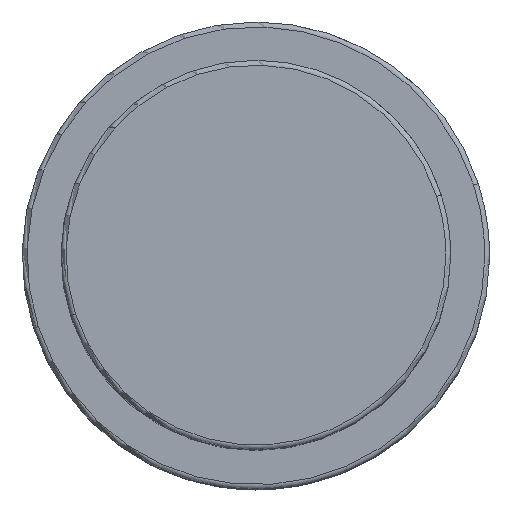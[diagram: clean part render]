
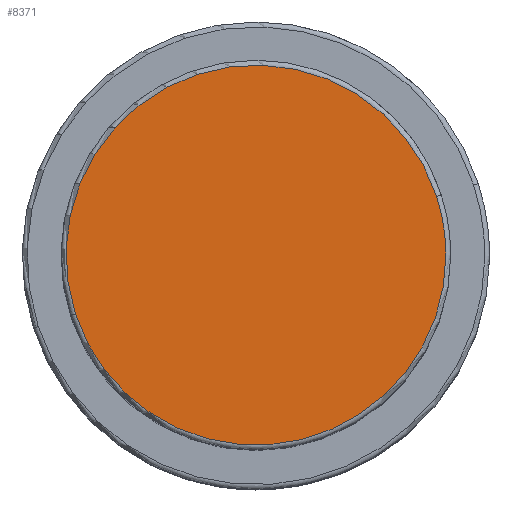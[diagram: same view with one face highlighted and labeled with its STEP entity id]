
A CAD part, top view. The second image highlights one B-rep face of the part: STEP entity #8371.
In plain terms, the highlighted planar face has unit normal (0, 0, 1).
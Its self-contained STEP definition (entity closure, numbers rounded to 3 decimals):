
#8337=CARTESIAN_POINT('',(19.5,0.0,53.5));
#8338=VERTEX_POINT('',#8337);
#8339=CARTESIAN_POINT('',(18.546,6.026,53.5));
#8340=VERTEX_POINT('',#8339);
#8341=CARTESIAN_POINT('',(0.0,0.0,53.5));
#8342=DIRECTION('',(0.0,0.0,1.0));
#8343=DIRECTION('',(1.0,0.0,0.0));
#8344=AXIS2_PLACEMENT_3D('',#8341,#8342,#8343);
#8345=CIRCLE('',#8344,19.5);
#8346=EDGE_CURVE('no 4202',#8338,#8340,#8345,.T.);
#8347=ORIENTED_EDGE('',*,*,#8346,.T.);
#8348=CARTESIAN_POINT('',(-18.546,-6.026,53.5));
#8349=VERTEX_POINT('',#8348);
#8350=CARTESIAN_POINT('',(0.0,0.0,53.5));
#8351=DIRECTION('',(0.0,0.0,1.0));
#8352=DIRECTION('',(1.0,0.0,0.0));
#8353=AXIS2_PLACEMENT_3D('',#8350,#8351,#8352);
#8354=CIRCLE('',#8353,19.5);
#8355=EDGE_CURVE('no 4208',#8340,#8349,#8354,.T.);
#8356=ORIENTED_EDGE('',*,*,#8355,.T.);
#8357=CARTESIAN_POINT('',(0.0,0.0,53.5));
#8358=DIRECTION('',(0.0,0.0,1.0));
#8359=DIRECTION('',(1.0,0.0,0.0));
#8360=AXIS2_PLACEMENT_3D('',#8357,#8358,#8359);
#8361=CIRCLE('',#8360,19.5);
#8362=EDGE_CURVE('no 4212',#8349,#8338,#8361,.T.);
#8363=ORIENTED_EDGE('',*,*,#8362,.T.);
#8364=EDGE_LOOP('',(#8347,#8356,#8363));
#8365=FACE_OUTER_BOUND('',#8364,.T.);
#8366=CARTESIAN_POINT('',(0.0,0.0,53.5));
#8367=DIRECTION('',(0.0,0.0,1.0));
#8368=DIRECTION('',(1.0,0.0,0.0));
#8369=AXIS2_PLACEMENT_3D('',#8366,#8367,#8368);
#8370=PLANE('',#8369);
#8371=ADVANCED_FACE('no 4193',(#8365),#8370,.T.);
